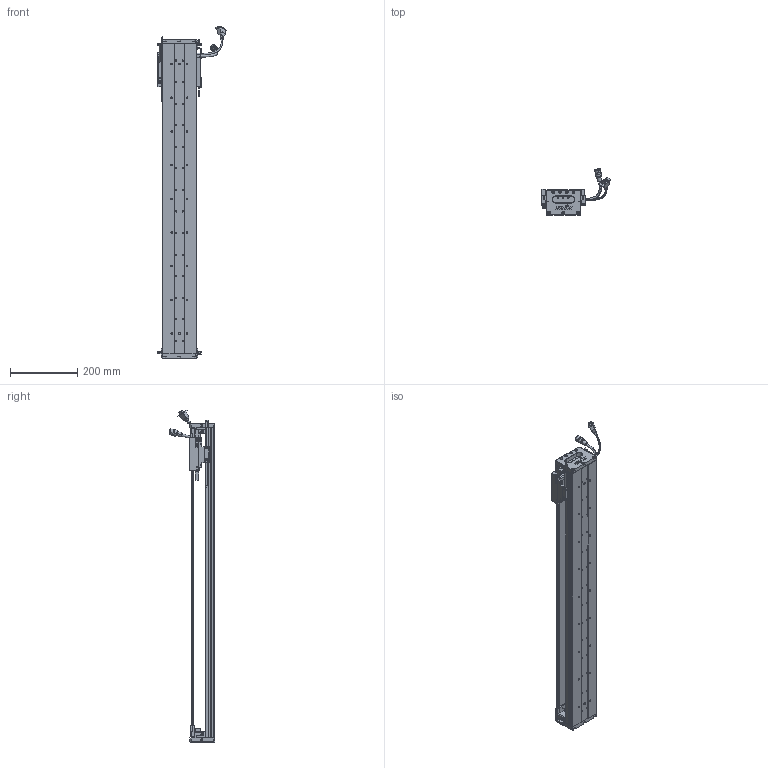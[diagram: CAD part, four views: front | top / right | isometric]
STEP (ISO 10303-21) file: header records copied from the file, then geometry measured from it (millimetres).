
FILE_DESCRIPTION (( 'STEP AP203' ), '1' );
FILE_NAME ('Z1-RY100D-1-L500-B-K.SLDASM_0750.step', '2021-05-17T01:40:39', ( '盈信电脑' ), ( '东莞市道滘镇水果街19号' ), 'SwSTEP 2.0', 'SolidWorks 2016', '' );
FILE_SCHEMA (( 'CONFIG_CONTROL_DESIGN' ));
Length unit declared in the file: millimetre
Products named in the file (36): SCREW-M1.6-2; 100-Z-臏賑輸盄裔(21遴); Z1-RY100D-1-L500-B-K.SLDASM_0750; HOLDER0; Z-100詩湍傷裔啣; PBU_SHEET; SCREW-M1.6-3; HARNESS; 榋妏寠巭燃_暯_M2_2; Z-RY100D詩湍狟揤裔; SEAL-Part-1; SCALE; COVER-Part-1; SCREW-M1.6; 140雄赽晤鎢ん堤盄; 140蚥薯蝶輸; Z-RY100D詩湍奻揤裔; COVER; Z-RY100D覜茼んえ; 覜茼ん672; SCALE-Part-2; HARNESS-Part-2; LABEL-Part-1; Z1-RY100-L500詩湍90mm遵_0750; SHIELDPLATE; SCALE-Part-1; PSLH080_PSLF2; SEAL; HARNESS-Part-1; 080黍杅芛假蚾釱21遴; SCREW-M1.7; Z1-RY100铝滑块（21款）; LABEL; Z1-RY100D-500-倰第菁釱_0750; SCREW-M1.7-1; SCREW-M1.6-1
Assembly tree (44 placements, depth 4):
  Z1-RY100D-1-L500-B-K.SLDASM_0750
    Z1-RY100D-500-倰第菁釱_0750
    Z1-RY100铝滑块（21款）
    PSLH080_PSLF2
      SCALE
        SCALE-Part-1
        SCALE-Part-2
      HARNESS
        HARNESS-Part-1
        HARNESS-Part-2
      LABEL
        LABEL-Part-1
      COVER
        COVER-Part-1
      SEAL
        SEAL-Part-1
      榋妏寠巭燃_暯_M2_2
      SHIELDPLATE
      SCREW-M1.7
      SCREW-M1.7-1
      PBU_SHEET
      SCREW-M1.6
      SCREW-M1.6-1
      SCREW-M1.6-2
      SCREW-M1.6-3
      HOLDER0
    080黍杅芛假蚾釱21遴
    Z-100詩湍傷裔啣  x2
    140蚥薯蝶輸  x2
    覜茼ん672  x4
    Z-RY100D覜茼んえ  x3
    100-Z-臏賑輸盄裔(21遴)
    140雄赽晤鎢ん堤盄
    Z1-RY100-L500詩湍90mm遵_0750
    Z-RY100D詩湍狟揤裔  x2
    Z-RY100D詩湍奻揤裔  x2
Bounding box: 205.84 x 136.11 x 985.43 mm (x, y, z)
Volume: 1990852.6 mm3; surface area: 782825.5 mm2
Topology: 39 solids, 39 shells, 2554 faces, 6697 edges, 4248 vertices
Faces by surface type: plane 1168, cylinder 1054, cone 210, torus 69, bspline 53
Entity records: 66421 total; most frequent: CARTESIAN_POINT 14089, DIRECTION 10419, ORIENTED_EDGE 9826, EDGE_CURVE 4913, AXIS2_PLACEMENT_3D 3798, VERTEX_POINT 3156, VECTOR 2823, LINE 2823
